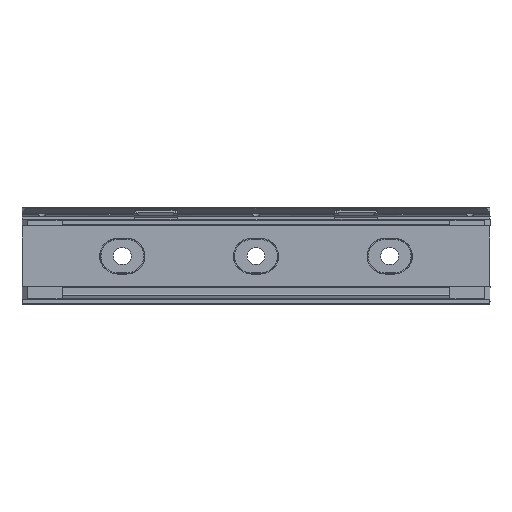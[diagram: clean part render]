
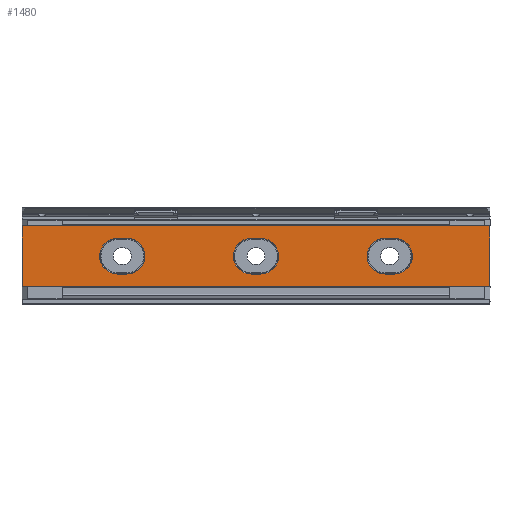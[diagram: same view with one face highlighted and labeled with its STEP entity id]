
A CAD part, front view. The second image highlights one B-rep face of the part: STEP entity #1480.
In plain terms, the highlighted planar face has unit normal (0, -1, 0).
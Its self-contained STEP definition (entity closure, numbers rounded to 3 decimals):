
#10=CARTESIAN_POINT('',(-5.,3.,
76.683));
#20=DIRECTION('',(0.,-1.,0.));
#30=DIRECTION('',(1.,0.,0.));
#40=AXIS2_PLACEMENT_3D('',#10,#20,#30);
#50=PLANE('',#40);
#60=CARTESIAN_POINT('',(-110.,3.,
72.083));
#70=DIRECTION('',(-1.,0.,0.));
#80=VECTOR('',#70,1.);
#90=LINE('',#60,#80);
#100=CARTESIAN_POINT('',(-108.25,3.,
72.083));
#110=VERTEX_POINT('',#100);
#120=CARTESIAN_POINT('',(-111.75,3.,
72.083));
#130=VERTEX_POINT('',#120);
#140=EDGE_CURVE('',#110,#130,#90,.T.);
#150=ORIENTED_EDGE('',*,*,#140,.F.);
#160=CARTESIAN_POINT('',(-111.75,3.,
65.383));
#170=DIRECTION('',(0.,-1.,0.));
#180=DIRECTION('',(-1.,0.,0.));
#190=AXIS2_PLACEMENT_3D('',#160,#170,#180);
#200=CIRCLE('',#190,6.7);
#210=CARTESIAN_POINT('',(-111.75,3.,
58.683));
#220=VERTEX_POINT('',#210);
#230=EDGE_CURVE('',#130,#220,#200,.T.);
#240=ORIENTED_EDGE('',*,*,#230,.F.);
#250=CARTESIAN_POINT('',(-110.,3.,
58.683));
#260=DIRECTION('',(1.,0.,0.));
#270=VECTOR('',#260,1.);
#280=LINE('',#250,#270);
#290=CARTESIAN_POINT('',(-108.25,3.,
58.683));
#300=VERTEX_POINT('',#290);
#310=EDGE_CURVE('',#220,#300,#280,.T.);
#320=ORIENTED_EDGE('',*,*,#310,.F.);
#330=CARTESIAN_POINT('',(-108.25,3.,
65.383));
#340=DIRECTION('',(0.,1.,0.));
#350=DIRECTION('',(1.,0.,0.));
#360=AXIS2_PLACEMENT_3D('',#330,#340,#350);
#370=CIRCLE('',#360,6.7);
#380=EDGE_CURVE('',#110,#300,#370,.T.);
#390=ORIENTED_EDGE('',*,*,#380,.T.);
#400=EDGE_LOOP('',(#390,#320,#240,#150));
#410=FACE_BOUND('',#400,.T.);
#420=CARTESIAN_POINT('',(-147.5,3.,
65.383));
#430=DIRECTION('',(0.,0.,1.));
#440=VECTOR('',#430,1.);
#450=LINE('',#420,#440);
#460=CARTESIAN_POINT('',(-147.5,3.,
54.083));
#470=VERTEX_POINT('',#460);
#480=CARTESIAN_POINT('',(-147.5,3.,
76.683));
#490=VERTEX_POINT('',#480);
#500=EDGE_CURVE('',#470,#490,#450,.T.);
#510=ORIENTED_EDGE('',*,*,#500,.F.);
#520=CARTESIAN_POINT('',(-5.,3.,
76.683));
#530=DIRECTION('',(-1.,0.,0.));
#540=VECTOR('',#530,1.);
#550=LINE('',#520,#540);
#560=CARTESIAN_POINT('',(27.5,3.,
76.683));
#570=VERTEX_POINT('',#560);
#580=EDGE_CURVE('',#570,#490,#550,.T.);
#590=ORIENTED_EDGE('',*,*,#580,.T.);
#600=CARTESIAN_POINT('',(27.5,3.,
65.383));
#610=DIRECTION('',(0.,0.,1.));
#620=VECTOR('',#610,1.);
#630=LINE('',#600,#620);
#640=CARTESIAN_POINT('',(27.5,3.,
54.083));
#650=VERTEX_POINT('',#640);
#660=EDGE_CURVE('',#650,#570,#630,.T.);
#670=ORIENTED_EDGE('',*,*,#660,.T.);
#680=CARTESIAN_POINT('',(-5.,3.,
54.083));
#690=DIRECTION('',(-1.,0.,0.));
#700=VECTOR('',#690,1.);
#710=LINE('',#680,#700);
#720=EDGE_CURVE('',#650,#470,#710,.T.);
#730=ORIENTED_EDGE('',*,*,#720,.F.);
#740=EDGE_LOOP('',(#730,#670,#590,#510));
#750=FACE_OUTER_BOUND('',#740,.T.);
#760=CARTESIAN_POINT('',(-60.,3.,
58.683));
#770=DIRECTION('',(-1.,0.,0.));
#780=VECTOR('',#770,1.);
#790=LINE('',#760,#780);
#800=CARTESIAN_POINT('',(-58.25,3.,
58.683));
#810=VERTEX_POINT('',#800);
#820=CARTESIAN_POINT('',(-61.75,3.,
58.683));
#830=VERTEX_POINT('',#820);
#840=EDGE_CURVE('',#810,#830,#790,.T.);
#850=ORIENTED_EDGE('',*,*,#840,.T.);
#860=CARTESIAN_POINT('',(-58.25,3.,
65.383));
#870=DIRECTION('',(0.,1.,0.));
#880=DIRECTION('',(1.,0.,0.));
#890=AXIS2_PLACEMENT_3D('',#860,#870,#880);
#900=CIRCLE('',#890,6.7);
#910=CARTESIAN_POINT('',(-58.25,3.,
72.083));
#920=VERTEX_POINT('',#910);
#930=EDGE_CURVE('',#920,#810,#900,.T.);
#940=ORIENTED_EDGE('',*,*,#930,.T.);
#950=CARTESIAN_POINT('',(-60.,3.,
72.083));
#960=DIRECTION('',(1.,0.,0.));
#970=VECTOR('',#960,1.);
#980=LINE('',#950,#970);
#990=CARTESIAN_POINT('',(-61.75,3.,
72.083));
#1000=VERTEX_POINT('',#990);
#1010=EDGE_CURVE('',#1000,#920,#980,.T.);
#1020=ORIENTED_EDGE('',*,*,#1010,.T.);
#1030=CARTESIAN_POINT('',(-61.75,3.,
65.383));
#1040=DIRECTION('',(0.,-1.,0.));
#1050=DIRECTION('',(-1.,0.,0.));
#1060=AXIS2_PLACEMENT_3D('',#1030,#1040,#1050);
#1070=CIRCLE('',#1060,6.7);
#1080=EDGE_CURVE('',#1000,#830,#1070,.T.);
#1090=ORIENTED_EDGE('',*,*,#1080,.F.);
#1100=EDGE_LOOP('',(#1090,#1020,#940,#850));
#1110=FACE_BOUND('',#1100,.T.);
#1120=CARTESIAN_POINT('',(-10.,3.,
72.083));
#1130=DIRECTION('',(1.,0.,0.));
#1140=VECTOR('',#1130,1.);
#1150=LINE('',#1120,#1140);
#1160=CARTESIAN_POINT('',(-11.75,3.,
72.083));
#1170=VERTEX_POINT('',#1160);
#1180=CARTESIAN_POINT('',(-8.25,3.,
72.083));
#1190=VERTEX_POINT('',#1180);
#1200=EDGE_CURVE('',#1170,#1190,#1150,.T.);
#1210=ORIENTED_EDGE('',*,*,#1200,.T.);
#1220=CARTESIAN_POINT('',(-11.75,3.,
65.383));
#1230=DIRECTION('',(0.,-1.,0.));
#1240=DIRECTION('',(-1.,0.,0.));
#1250=AXIS2_PLACEMENT_3D('',#1220,#1230,#1240);
#1260=CIRCLE('',#1250,6.7);
#1270=CARTESIAN_POINT('',(-11.75,3.,
58.683));
#1280=VERTEX_POINT('',#1270);
#1290=EDGE_CURVE('',#1170,#1280,#1260,.T.);
#1300=ORIENTED_EDGE('',*,*,#1290,.F.);
#1310=CARTESIAN_POINT('',(-10.,3.,
58.683));
#1320=DIRECTION('',(-1.,0.,0.));
#1330=VECTOR('',#1320,1.);
#1340=LINE('',#1310,#1330);
#1350=CARTESIAN_POINT('',(-8.25,3.,
58.683));
#1360=VERTEX_POINT('',#1350);
#1370=EDGE_CURVE('',#1360,#1280,#1340,.T.);
#1380=ORIENTED_EDGE('',*,*,#1370,.T.);
#1390=CARTESIAN_POINT('',(-8.25,3.,
65.383));
#1400=DIRECTION('',(0.,1.,0.));
#1410=DIRECTION('',(1.,0.,0.));
#1420=AXIS2_PLACEMENT_3D('',#1390,#1400,#1410);
#1430=CIRCLE('',#1420,6.7);
#1440=EDGE_CURVE('',#1190,#1360,#1430,.T.);
#1450=ORIENTED_EDGE('',*,*,#1440,.T.);
#1460=EDGE_LOOP('',(#1450,#1380,#1300,#1210));
#1470=FACE_BOUND('',#1460,.T.);
#1480=ADVANCED_FACE('',(#410,#750,#1110,#1470),#50,.T.);
